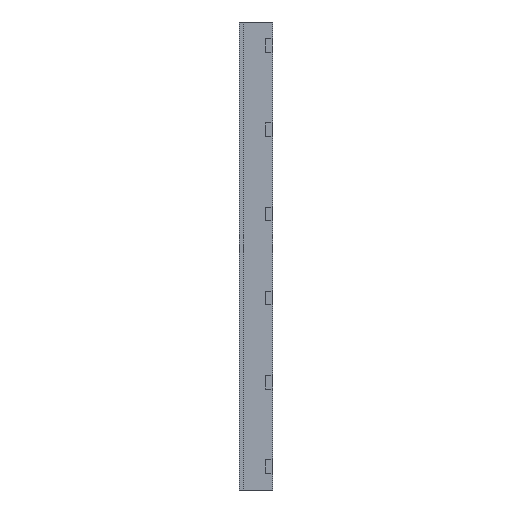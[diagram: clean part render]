
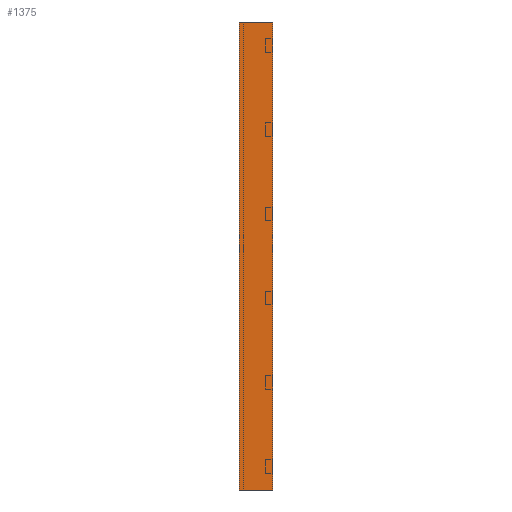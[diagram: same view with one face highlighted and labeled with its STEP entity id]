
A CAD part, left-side view. The second image highlights one B-rep face of the part: STEP entity #1375.
In plain terms, the highlighted planar face has unit normal (-1, 0, 0).
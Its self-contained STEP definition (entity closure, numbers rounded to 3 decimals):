
#45 = VECTOR ( 'NONE', #263, 1000. ) ;
#81 = ORIENTED_EDGE ( 'NONE', *, *, #881, .T. ) ;
#122 = PLANE ( 'NONE',  #1219 ) ;
#194 = ORIENTED_EDGE ( 'NONE', *, *, #741, .F. ) ;
#221 = EDGE_CURVE ( 'NONE', #993, #1373, #932, .T. ) ;
#263 = DIRECTION ( 'NONE',  ( 0., 0., 1. ) ) ;
#323 = DIRECTION ( 'NONE',  ( 0., -1., 0. ) ) ;
#364 = LINE ( 'NONE', #1269, #1428 ) ;
#461 = EDGE_LOOP ( 'NONE', ( #872, #194, #81, #725 ) ) ;
#532 = FACE_OUTER_BOUND ( 'NONE', #461, .T. ) ;
#601 = CARTESIAN_POINT ( 'NONE',  ( 0., 100., 0. ) ) ;
#608 = DIRECTION ( 'NONE',  ( 0., -1., 0. ) ) ;
#725 = ORIENTED_EDGE ( 'NONE', *, *, #221, .T. ) ;
#741 = EDGE_CURVE ( 'NONE', #1427, #837, #839, .T. ) ;
#822 = DIRECTION ( 'NONE',  ( 0., 0., 1. ) ) ;
#837 = VERTEX_POINT ( 'NONE', #601 ) ;
#839 = LINE ( 'NONE', #1604, #1218 ) ;
#872 = ORIENTED_EDGE ( 'NONE', *, *, #1211, .F. ) ;
#881 = EDGE_CURVE ( 'NONE', #1427, #993, #364, .T. ) ;
#883 = VECTOR ( 'NONE', #323, 1000. ) ;
#932 = LINE ( 'NONE', #1209, #45 ) ;
#961 = CARTESIAN_POINT ( 'NONE',  ( 0., 0., -1400. ) ) ;
#993 = VERTEX_POINT ( 'NONE', #961 ) ;
#1060 = DIRECTION ( 'NONE',  ( 0., 0., 1. ) ) ;
#1187 = CARTESIAN_POINT ( 'NONE',  ( 0., 0., -1400. ) ) ;
#1209 = CARTESIAN_POINT ( 'NONE',  ( 0., 0., -1400. ) ) ;
#1211 = EDGE_CURVE ( 'NONE', #837, #1373, #1498, .T. ) ;
#1218 = VECTOR ( 'NONE', #822, 1000. ) ;
#1219 = AXIS2_PLACEMENT_3D ( 'NONE', #1187, #1338, #1060 ) ;
#1234 = CARTESIAN_POINT ( 'NONE',  ( 0., 100., -1400. ) ) ;
#1269 = CARTESIAN_POINT ( 'NONE',  ( 0., 0., -1400. ) ) ;
#1338 = DIRECTION ( 'NONE',  ( -1., 0., 0. ) ) ;
#1373 = VERTEX_POINT ( 'NONE', #1574 ) ;
#1375 = ADVANCED_FACE ( 'NONE', ( #532 ), #122, .T. ) ;
#1427 = VERTEX_POINT ( 'NONE', #1234 ) ;
#1428 = VECTOR ( 'NONE', #608, 1000. ) ;
#1498 = LINE ( 'NONE', #1632, #883 ) ;
#1574 = CARTESIAN_POINT ( 'NONE',  ( 0., 0., 0. ) ) ;
#1604 = CARTESIAN_POINT ( 'NONE',  ( 0., 100., -1400. ) ) ;
#1632 = CARTESIAN_POINT ( 'NONE',  ( 0., 0., 0. ) ) ;
